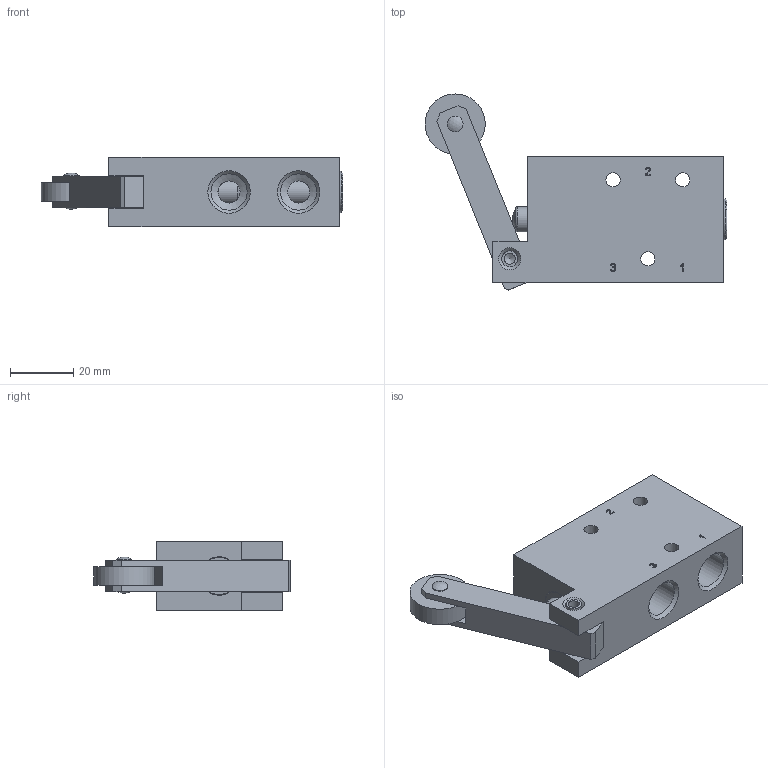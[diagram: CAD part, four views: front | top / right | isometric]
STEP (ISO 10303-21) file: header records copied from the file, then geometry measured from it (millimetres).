
FILE_DESCRIPTION( ( 'Unknown' ), '1' );
FILE_NAME( 'Q:/Solid Edge ST4/weblap modellek/stp/második adag/BR 311 701.stp', 'Unknown', ( 'Unknown' ), ( 'Unknown' ), 'PSStep 14.0', 'Unknown', ' ' );
FILE_SCHEMA( ( 'AUTOMOTIVE_DESIGN { 1 0 10303 214 1 1 1 1 }' ) );
Length unit declared in the file: millimetre
Products named in the file (9): Assem1; -oa0
Assembly tree (8 placements, depth 2):
  Assem1
    -oa0
    -oa0
    -oa0
    -oa0
    -oa0
    -oa0
    -oa0
    -oa0
Bounding box: 95.43 x 61.99 x 22 mm (x, y, z)
Volume: 559.6 mm3; surface area: 20105.8 mm2
Topology: 2 solids, 133 shells, 141 faces, 688 edges, 649 vertices
Faces by surface type: plane 57, extrusion 40, cylinder 26, cone 14, sphere 3, torus 1
Full cylindrical faces by diameter (mm): 1.6 x1, 3.5 x2, 4.5 x4, 4.998 x1, 5 x2, 8 x2, 9 x1, 11.445 x6, 12 x1, 13 x1, 19 x1
Entity records: 8670 total; most frequent: CARTESIAN_POINT 2807, DIRECTION 840, ORIENTED_EDGE 637, VERTEX_POINT 631, EDGE_CURVE 629, VECTOR 376, LINE 336, AXIS2_PLACEMENT_3D 232
